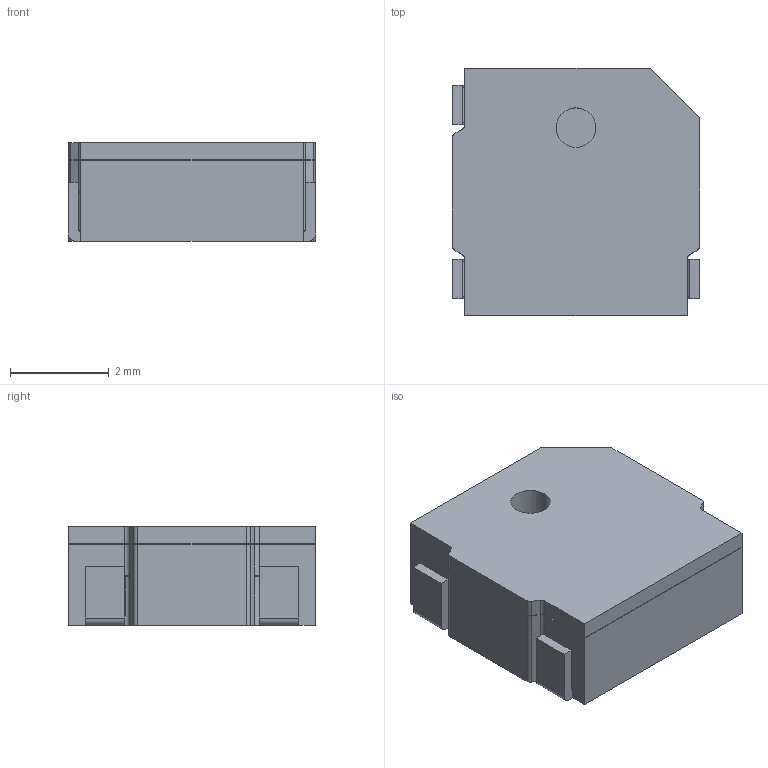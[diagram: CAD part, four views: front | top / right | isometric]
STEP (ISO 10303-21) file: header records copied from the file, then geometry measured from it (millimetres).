
FILE_DESCRIPTION (( 'STEP AP203' ), '1' );
FILE_NAME ('KSSG33J12-HDB 20200524.STEP', '2020-05-25T06:45:26', ( '' ), ( '' ), 'SwSTEP 2.0', 'SolidWorks 2019', '' );
FILE_SCHEMA (( 'CONFIG_CONTROL_DESIGN' ));
Length unit declared in the file: millimetre
Products named in the file (1): KSSG33J12-HDB  20200524
Bounding box: 5 x 5 x 2 mm (x, y, z)
Volume: 47.4 mm3; surface area: 106.4 mm2
Topology: 4 solids, 4 shells, 111 faces, 294 edges, 196 vertices
Faces by surface type: plane 76, cylinder 35
Entity records: 3511 total; most frequent: CARTESIAN_POINT 635, ORIENTED_EDGE 588, DIRECTION 568, EDGE_CURVE 294, VECTOR 222, LINE 222, VERTEX_POINT 196, AXIS2_PLACEMENT_3D 173
